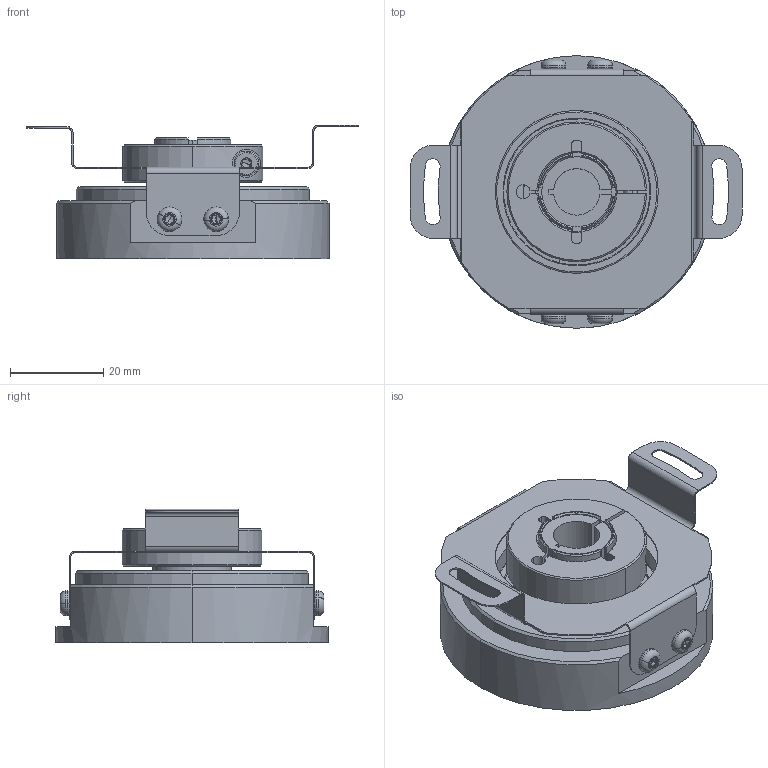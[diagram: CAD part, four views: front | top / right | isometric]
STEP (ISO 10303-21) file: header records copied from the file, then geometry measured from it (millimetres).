
FILE_DESCRIPTION (( 'STEP AP214' ), '1' );
FILE_NAME ('OCD-B100-C5Y-N.STEP', '2013-03-07T13:36:07', ( '' ), ( '' ), 'SwSTEP 2.0', 'SolidWorks 2006104', '' );
FILE_SCHEMA (( 'AUTOMOTIVE_DESIGN' ));
Length unit declared in the file: millimetre
Products named in the file (1): OCD-B100-C5Y-N
Bounding box: 71.24 x 58.5 x 28.73 mm (x, y, z)
Surface area: 24887.7 mm2 (no closed solid volume)
Topology: 0 solids, 18 shells, 590 faces, 1480 edges, 929 vertices
Faces by surface type: cylinder 200, plane 163, cone 153, torus 70, bspline 4
Entity records: 25703 total; most frequent: CARTESIAN_POINT 4783, DIRECTION 3229, ORIENTED_EDGE 2900, EDGE_CURVE 1460, AXIS2_PLACEMENT_3D 1370, VERTEX_POINT 929, CIRCLE 783, EDGE_LOOP 649
